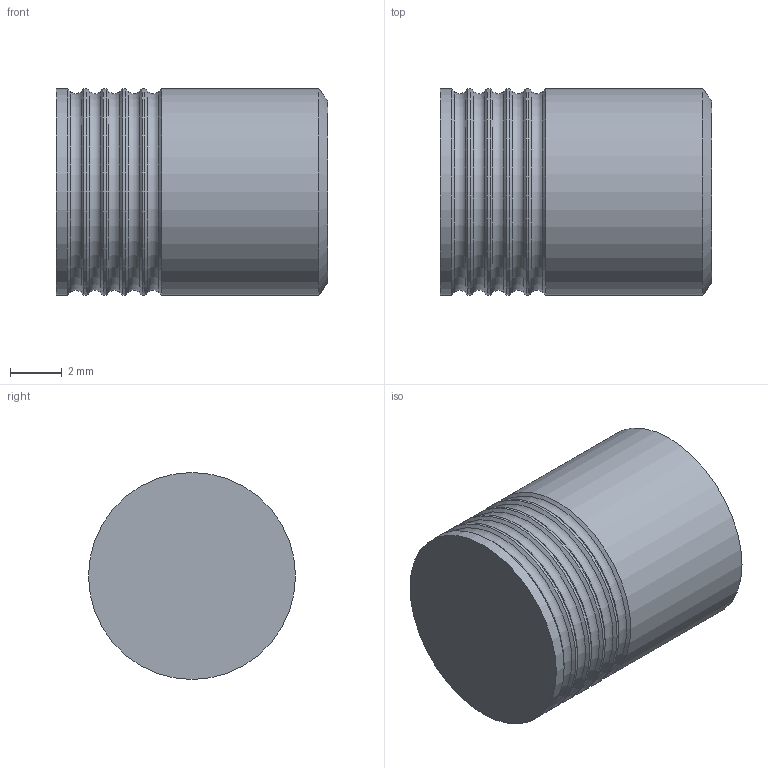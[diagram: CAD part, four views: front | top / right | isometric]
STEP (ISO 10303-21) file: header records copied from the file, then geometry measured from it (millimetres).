
FILE_DESCRIPTION(/* description */ ('LEE CHEK, 855 SERIES, REVERSE'),/* implementation_level */ '2;1');
FILE_NAME(/* name */ '\\ABSOLUTE\SmWork\Vernon\CCRM280XXXXS.stp',/* time_stamp */ '2021-03-23T14:12:12-04:00',/* author */ ('VernonJ'),/* organization */ (''),/* preprocessor_version */ 'ST-DEVELOPER v18',/* originating_system */ 'Autodesk Inventor 2020',/* authorisation */ '');
FILE_SCHEMA (('AUTOMOTIVE_DESIGN { 1 0 10303 214 3 1 1 }'));
Length unit declared in the file: millimetre
Products named in the file (1): CCRM280XXXXS
Bounding box: 10.5 x 8 x 8 mm (x, y, z)
Volume: 515.1 mm3; surface area: 372.7 mm2
Topology: 1 solids, 1 shells, 24 faces, 78 edges, 56 vertices
Faces by surface type: cone 11, cylinder 6, torus 5, plane 2
Full cylindrical faces by diameter (mm): 8 x6
Entity records: 960 total; most frequent: DIRECTION 189, CARTESIAN_POINT 159, ORIENTED_EDGE 156, AXIS2_PLACEMENT_3D 86, EDGE_CURVE 78, CIRCLE 61, VERTEX_POINT 56, FACE_OUTER_BOUND 24
